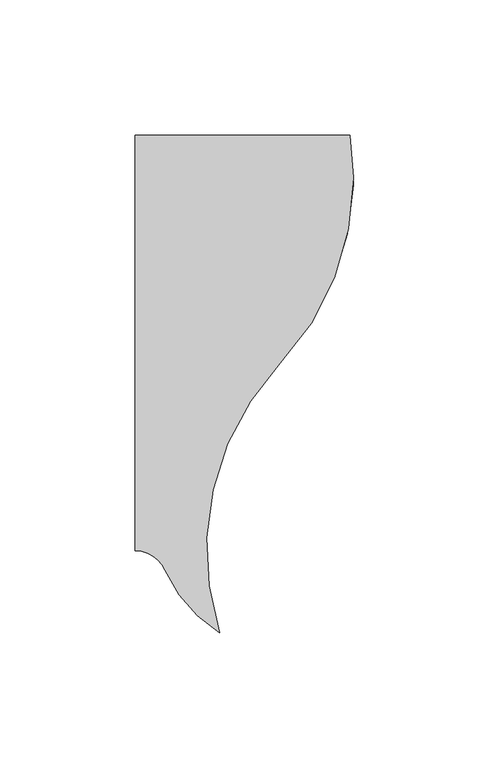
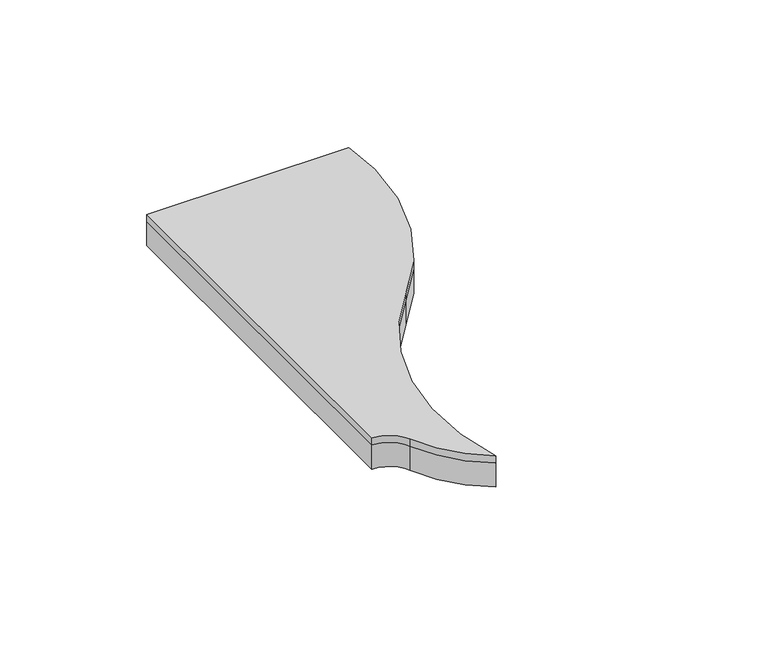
"""IFC4 building model written with IfcOpenShell, lengths in millimetres: proxy geometry, FilzFelt_Fish_Block : Fish Block."""

from ifc_helpers import new_model, si_unit, frame, origin, place, context, project, spatial, polyline, circle_curve, source, transform, mapped, element, save
from ifc_brep_helpers import plane_surface, cylinder_surface, revolved_surface, advanced_brep


def specialty_equipment_04623bae(model_context):
    return source(origin(), model_context, "Body", "AdvancedBrep", [
        advanced_brep(
        [(53.5486457, -68.6120133, 10.0210937), (31.2619065, -168.1141956, 10.0210937), (11.0103348, -145.0347036, 10.0210937), (0.0, -137.8641736, 10.0210937), (0.0, 15.6533306, 10.0210937), (79.4843468, 15.6533306, 10.0210937), (11.0103348, -145.0347036, 12.9976563), (31.2619065, -168.1141956, 12.9976563), (53.5486457, -68.6120133, 12.9976563), (80.7142226, 0.0, 12.9976563), (79.4843468, 15.6533306, 12.9976563), (0.0, 15.6533306, 12.9976563), (0.0, -137.8641736, 12.9976563)],
        [
            (0, 1, circle_curve(frame((126.6124317, -137.2240266, 10.0210937), z_axis=(0.0, 0.0, 1.0), x_axis=(-1.0, 0.0, 0.0)), 100.2293629)),
            (1, 2, circle_curve(frame((57.9263497, -124.2921115, 10.0210937), z_axis=(0.0, 0.0, -1.0), x_axis=(-1.0, 0.0, 0.0)), 51.2968574)),
            (2, 3, circle_curve(frame((0.0, -149.9026124, 10.0210937), z_axis=(0.0, 0.0, 1.0), x_axis=(-1.0, 0.0, 0.0)), 12.0384388)),
            (3, 4),
            (4, 5),
            (5, 0, circle_curve(frame((-19.5151403, 0.0, 10.0210937), z_axis=(0.0, 0.0, -1.0), x_axis=(-1.0, 0.0, 0.0)), 100.2293629)),
            (6, 7, circle_curve(frame((57.9263497, -124.2921115, 12.9976563), z_axis=(0.0, 0.0, 1.0), x_axis=(-1.0, 0.0, 0.0)), 51.2968574)),
            (7, 8, circle_curve(frame((126.6124317, -137.2240266, 12.9976563), z_axis=(0.0, 0.0, -1.0), x_axis=(-1.0, 0.0, 0.0)), 100.2293629)),
            (8, 9, circle_curve(frame((-19.5151403, 0.0, 12.9976563), z_axis=(0.0, 0.0, 1.0), x_axis=(-1.0, 0.0, 0.0)), 100.2293629)),
            (9, 10, circle_curve(frame((-19.5151403, 0.0, 12.9976563), z_axis=(0.0, 0.0, 1.0), x_axis=(-1.0, 0.0, 0.0)), 100.2293629)),
            (10, 11),
            (11, 12),
            (12, 6, circle_curve(frame((0.0, -149.9026124, 12.9976563), z_axis=(0.0, 0.0, -1.0), x_axis=(-1.0, 0.0, 0.0)), 12.0384388)),
            (8, 0),
            (5, 10),
            (7, 1),
            (6, 2),
            (12, 3),
            (4, 11),
        ],
        [
            plane_surface(frame((0.0, 0.0, 10.0210937), z_axis=(0.0, 0.0, -1.0), x_axis=(0.0, -1.0, 0.0))),
            plane_surface(frame((0.0, 0.0, 12.9976563), z_axis=(0.0, 0.0, 1.0), x_axis=(0.0, -1.0, 0.0))),
            cylinder_surface(frame((-19.5151403, 0.0, 10.0210937), z_axis=(0.0, 0.0, -1.0), x_axis=(-1.0, 0.0, 0.0)), 100.2293629),
            revolved_surface(polyline([(26.383068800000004, -137.2240266, 12.9976563), (26.383068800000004, -137.2240266, 10.0210937)]), (126.6124317, -137.2240266, 10.0210937), (0.0, 0.0, 1.0)),
            cylinder_surface(frame((57.9263497, -124.2921115, 10.0210937), z_axis=(0.0, 0.0, -1.0), x_axis=(-1.0, 0.0, 0.0)), 51.2968574),
            revolved_surface(polyline([(-12.0384388, -149.9026124, 12.9976563), (-12.0384388, -149.9026124, 10.0210937)]), (0.0, -149.9026124, 10.0210937), (0.0, 0.0, 1.0)),
            plane_surface(frame((-112.4642226, 15.6533306, 12.9976562), z_axis=(0.0, 1.0, 0.0), x_axis=(-1.0, 0.0, 0.0))),
            plane_surface(frame((0.0, 168.3338795, 12.9976562), z_axis=(-1.0, 0.0, 0.0), x_axis=(0.0, -1.0, 0.0))),
        ],
        [
            (0, [[1, 2, 3, 4, 5, 6]]),
            (1, [[7, 8, 9, 10, 11, 12, 13]]),
            (2, [[14, -6, 15, -10, -9]]),
            (3, [[-1, -14, -8, 16]]),
            (4, [[-2, -16, -7, 17]]),
            (5, [[-17, -13, 18, -3]]),
            (6, [[-15, -5, 19, -11]]),
            (7, [[-4, -18, -12, -19]]),
        ],
    ),
        advanced_brep(
        [(31.2619065, -168.1141956, 0.0), (11.0103348, -145.0347036, 0.0), (0.0, -137.8641736, 0.0), (0.0, 15.6533306, 0.0), (79.4843468, 15.6533306, 0.0), (80.7142226, 0.0, 0.0), (53.5486457, -68.6120133, 0.0), (31.2619065, -168.1141956, 10.0210937), (53.5486457, -68.6120133, 10.0210937), (79.4843468, 15.6533306, 10.0210937), (0.0, 15.6533306, 10.0210937), (0.0, -137.8641736, 10.0210937), (11.0103348, -145.0347036, 10.0210937)],
        [
            (0, 1, circle_curve(frame((57.9263497, -124.2921115, 0.0), z_axis=(0.0, 0.0, -1.0), x_axis=(-1.0, 0.0, 0.0)), 51.2968574)),
            (1, 2, circle_curve(frame((0.0, -149.9026124, 0.0), z_axis=(0.0, 0.0, 1.0), x_axis=(-1.0, 0.0, 0.0)), 12.0384388)),
            (2, 3),
            (3, 4),
            (4, 5, circle_curve(frame((-19.5151403, 0.0, 0.0), z_axis=(0.0, 0.0, -1.0), x_axis=(-1.0, 0.0, 0.0)), 100.2293629)),
            (5, 6, circle_curve(frame((-19.5151403, 0.0, 0.0), z_axis=(0.0, 0.0, -1.0), x_axis=(-1.0, 0.0, 0.0)), 100.2293629)),
            (6, 0, circle_curve(frame((126.6124317, -137.2240266, 0.0), z_axis=(0.0, 0.0, 1.0), x_axis=(-1.0, 0.0, 0.0)), 100.2293629)),
            (7, 8, circle_curve(frame((126.6124317, -137.2240266, 10.0210937), z_axis=(0.0, 0.0, -1.0), x_axis=(-1.0, 0.0, 0.0)), 100.2293629)),
            (8, 9, circle_curve(frame((-19.5151403, 0.0, 10.0210937), z_axis=(0.0, 0.0, 1.0), x_axis=(-1.0, 0.0, 0.0)), 100.2293629)),
            (9, 10),
            (10, 11),
            (11, 12, circle_curve(frame((0.0, -149.9026124, 10.0210937), z_axis=(0.0, 0.0, -1.0), x_axis=(-1.0, 0.0, 0.0)), 12.0384388)),
            (12, 7, circle_curve(frame((57.9263497, -124.2921115, 10.0210937), z_axis=(0.0, 0.0, 1.0), x_axis=(-1.0, 0.0, 0.0)), 51.2968574)),
            (0, 7),
            (12, 1),
            (11, 2),
            (8, 6),
            (4, 9),
            (3, 10),
        ],
        [
            plane_surface(frame((0.0, 0.0, 0.0), z_axis=(0.0, 0.0, -1.0), x_axis=(0.0, -1.0, 0.0))),
            plane_surface(frame((0.0, 0.0, 10.0210937), z_axis=(0.0, 0.0, 1.0), x_axis=(0.0, -1.0, 0.0))),
            cylinder_surface(frame((57.9263497, -124.2921115, 0.0), z_axis=(0.0, 0.0, -1.0), x_axis=(-1.0, 0.0, 0.0)), 51.2968574),
            revolved_surface(polyline([(-12.0384388, -149.9026124, 10.0210937), (-12.0384388, -149.9026124, 0.0)]), (0.0, -149.9026124, 0.0), (0.0, 0.0, 1.0)),
            cylinder_surface(frame((-19.5151403, 0.0, 0.0), z_axis=(0.0, 0.0, -1.0), x_axis=(-1.0, 0.0, 0.0)), 100.2293629),
            revolved_surface(polyline([(26.383068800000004, -137.2240266, 10.0210937), (26.383068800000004, -137.2240266, 0.0)]), (126.6124317, -137.2240266, 0.0), (0.0, 0.0, 1.0)),
            plane_surface(frame((-112.4642226, 15.6533306, 12.9976562), z_axis=(0.0, 1.0, 0.0), x_axis=(-1.0, 0.0, 0.0))),
            plane_surface(frame((0.0, 168.3338795, 12.9976562), z_axis=(-1.0, 0.0, 0.0), x_axis=(0.0, -1.0, 0.0))),
        ],
        [
            (0, [[1, 2, 3, 4, 5, 6, 7]]),
            (1, [[8, 9, 10, 11, 12, 13]]),
            (2, [[-1, 14, -13, 15]]),
            (3, [[-15, -12, 16, -2]]),
            (4, [[17, -6, -5, 18, -9]]),
            (5, [[-7, -17, -8, -14]]),
            (6, [[-18, -4, 19, -10]]),
            (7, [[-3, -16, -11, -19]]),
        ],
    ),
    ])


if __name__ == "__main__":
    model = new_model("IFC4")
    model_context = context("Model", 3, world=origin())
    ifc_project = project(units=[si_unit("LENGTHUNIT", "METRE", prefix="MILLI")], contexts=[model_context])
    site = spatial("IfcSite", under=ifc_project)
    building = spatial("IfcBuilding", under=site)
    placement = place(None, origin())
    specialty_equipment_shape = specialty_equipment_04623bae(model_context)
    element("IfcBuildingElementProxy", 1, Name="FilzFelt_Fish_Block : Fish Block", ObjectType="FilzFelt_Fish_Block : Fish Block", at=placement, inside=building, context=model_context, shape_type="MappedRepresentation", body=[
        mapped(specialty_equipment_shape, transform((0.0, 0.0, 0.0), x_axis=(1.0, 0.0, 0.0), y_axis=(0.0, 1.0, 0.0), z_axis=(0.0, 0.0, 1.0))),
    ])
    save(model, "model.ifc")
